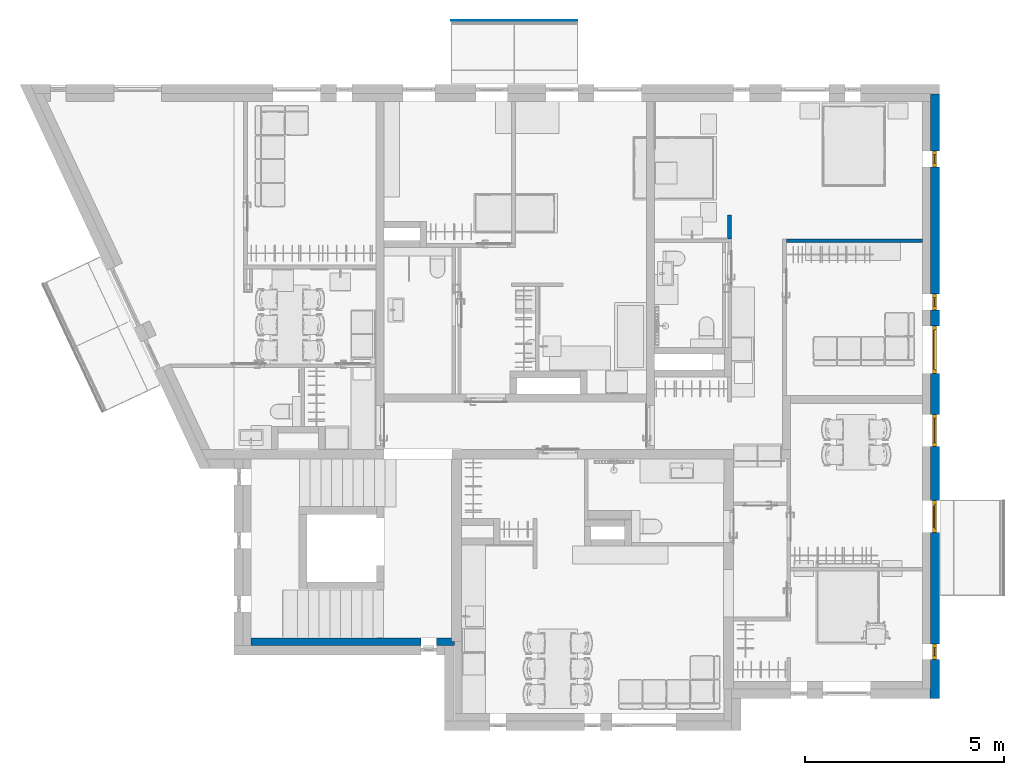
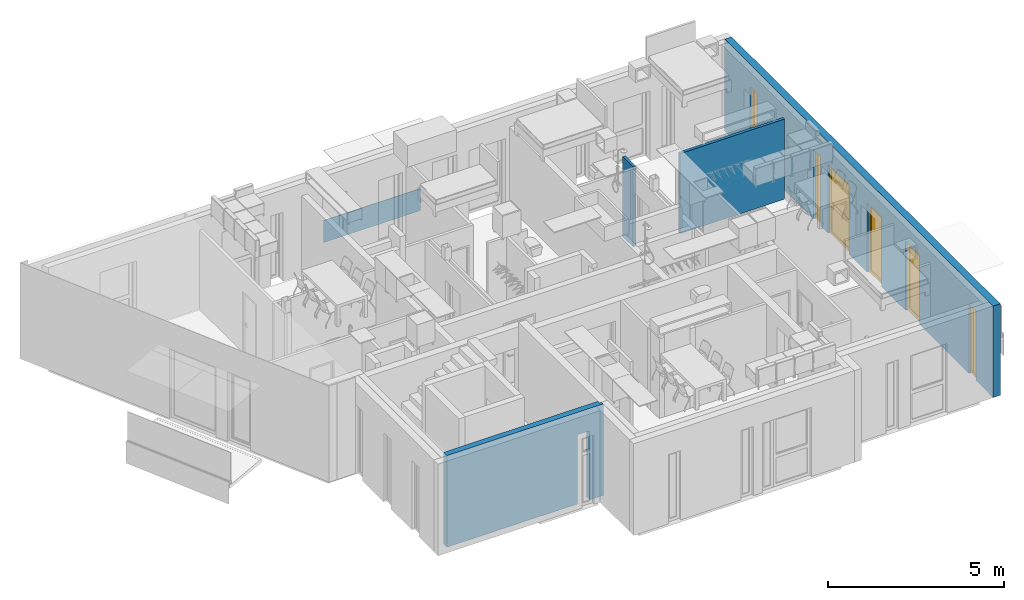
# One storey, part 9 of 68: 6 windows, 5 walls, 6 openings.
"""IFC2X3 building model written with IfcOpenShell, lengths in millimetres."""

from ifc_helpers import new_model, entity, si_unit, converted_unit, direction, frame, frame_2d, origin, place, context, subcontext, project, spatial, polyline, rectangle, extrude, clip, bounded_halfspace, faceted_brep, source, transform, mapped, material, material_list, layer, layer_set, layer_usage, type_object, type_shapes, element, fill, save


model = new_model("IFC2X3")

# Units and contexts
model_context = context("Model", 3, precision=0.01, world=origin(), true_north=direction((6.123233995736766e-17, 1.0)))
plan_context = context("Plan", 3, precision=0.01, world=origin(), true_north=direction((6.123233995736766e-17, 1.0)))
body_context = subcontext(model_context, "Body", "Model", "MODEL_VIEW")
ifc_project = project(units=[si_unit("LENGTHUNIT", "METRE", prefix="MILLI"), converted_unit("PLANEANGLEUNIT", "DEGREE", entity("IfcPlaneAngleMeasure", 0.017453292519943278), si_unit("PLANEANGLEUNIT", "RADIAN"), dimensions=[0, 0, 0, 0, 0, 0, 0]), si_unit("AREAUNIT", "SQUARE_METRE")], contexts=[model_context, plan_context])

# Site, building, storey
site_placement = place(None, origin())
site = spatial("IfcSite", under=ifc_project, at=site_placement, Name="Default", CompositionType="ELEMENT")
building_placement = place(site_placement, origin())
building = spatial("IfcBuilding", under=site, at=building_placement, CompositionType="ELEMENT")
storey_placement = place(building_placement, frame((0.0, 0.0, 6295.0)))
storey = spatial("IfcBuildingStorey", under=building, at=storey_placement, Name="3K", CompositionType="ELEMENT", Elevation=6294.999999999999)

# Wall
ifc_material_1 = material(Name="_K. Müüritis. Väikeplokk. Betoon-õõnesplokk")
ifc_layer_1 = layer(ifc_material_1, 190.00000000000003)
ifc_layer_set_1 = layer_set([ifc_layer_1], Name="Basic Wall:Columbia 190mm")
wall_type_1 = type_object("IfcWallType", Name="Basic Wall:Columbia 190mm", PredefinedType="STANDARD", material=ifc_layer_set_1)
wall_1_placement = place(storey_placement, frame((5114.997863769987, 1805.0, 0.0), z_axis=(0.0, 0.0, 1.0), x_axis=(-1.0, 0.0, 0.0)))
element("IfcWall", 1, at=wall_1_placement, inside=storey, type_object=wall_type_1, Name="Basic Wall:Columbia 190mm", ObjectType="Basic Wall:Columbia 190mm", context=body_context, shape_type="Brep", body=[
    faceted_brep([(5114.997863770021, -95.0, 3170.0), (844.9978637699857, -95.0, 3170.0), (444.9978637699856, -95.0, 3170.0), (65.00280291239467, -95.0, 3170.0), (65.00280291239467, -95.0, 0.0), (444.9978637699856, -95.0, 0.0), (444.9978637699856, -95.0, 2400.0), (844.9978637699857, -95.0, 2400.0), (844.9978637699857, -95.0, 0.0), (5114.997863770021, -95.0, 0.0), (0.0, 95.0, 3170.0), (4.997863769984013, 95.0, 3170.0), (244.997863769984, 95.0, 3170.0), (444.9978637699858, 95.0, 3170.0), (844.9978637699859, 95.0, 3170.0), (5114.99786377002, 95.0, 3170.0), (5114.99786377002, 95.0, 0.0), (844.9978637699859, 95.0, 0.0), (844.9978637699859, 95.0, 2400.0), (444.9978637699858, 95.0, 2400.0), (444.9978637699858, 95.0, 0.0), (244.997863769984, 95.0, 0.0), (4.997863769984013, 95.0, 0.0), (0.0, 95.0, 0.0), (65.00280291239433, 0.0, 0.0), (5.002802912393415, 0.0, 0.0), (0.0, 0.0, 0.0), (0.0, 0.0, 3170.0), (65.00280291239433, 0.0, 3170.0)], [[[0, 1, 2, 3, 4, 5, 6, 7, 8, 9]], [[10, 11, 12, 13, 14, 15, 16, 17, 18, 19, 20, 21, 22, 23]], [[4, 24, 25, 26, 23, 22, 21, 20, 5]], [[3, 2, 1, 0, 15, 14, 13, 12, 11, 10, 27, 28]], [[0, 9, 16, 15]], [[4, 3, 28, 24]], [[28, 27, 26, 25, 24]], [[10, 23, 26, 27]], [[7, 18, 17, 8]], [[18, 7, 6, 19]], [[19, 6, 5, 20]], [[16, 9, 8, 17]]]),
])

# Wall, openings, windows
ifc_material_2 = material(Name="_K. Väisviimistlus. Krohv. Valge")
ifc_layer_2 = layer(ifc_material_2, 10.0)
ifc_material_3 = material(Name="_K. Soojustus. EPS Silver")
ifc_layer_3 = layer(ifc_material_3, 230.0)
ifc_layer_set_2 = layer_set([ifc_layer_2, ifc_layer_3], Name="Basic Wall:VS-01")
ifc_layer_usage_1 = layer_usage(ifc_layer_set_2, "AXIS2", "NEGATIVE", 120.0)
wall_type_2 = type_object("IfcWallType", Name="Basic Wall:VS-01", PredefinedType="STANDARD", material=ifc_layer_set_2)
wall_2_placement = place(storey_placement, frame((17210.0, 15590.0, 0.0), z_axis=(0.0, 0.0, 1.0), x_axis=(0.0, -1.0, 0.0)))
wall_2 = element("IfcWallStandardCase", 2, at=wall_2_placement, inside=storey, type_object=wall_type_2, material=ifc_layer_usage_1, Name="Basic Wall:VS-01", ObjectType="Basic Wall:VS-01", context=body_context, shape_type="Clipping", body=[
    clip(clip(extrude(rectangle(XDim=15219.99999999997, YDim=240.00000000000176, at=frame_2d((7609.999999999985, 3.410605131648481e-13), x_axis=(-1.0, 0.0))), origin(), (0.0, 0.0, 1.0), 3169.999999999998), bounded_halfspace(frame((14980.0, -110.0, 0.0), z_axis=(0.0, 1.0, 0.0), x_axis=(-1.0, 0.0, 0.0)), True, frame((14980.0, -110.0, 0.0), z_axis=(0.0, 1.0, 0.0), x_axis=(-1.0, 0.0, 0.0)), polyline([(0.0, 0.0), (740.0, 0.0), (740.0, 2400.0), (1140.0, 2400.0), (1140.0, 0.0), (3940.0, 0.0), (3940.0, 2400.0), (4740.0, 2400.0), (4740.0, 0.0), (6110.0, 0.0), (6110.0, 2400.0), (6910.0, 2400.0), (6910.0, 0.0), (7940.0, 0.0), (7940.0, 2400.0), (9140.0, 2400.0), (9140.0, 0.0), (9540.0, 0.0), (9540.0, 2400.0), (9940.0, 2400.0), (9940.0, 0.0), (13140.0, 0.0), (13140.0, 2400.0), (13540.0, 2400.0), (13540.0, 0.0), (14790.0, 0.0), (14980.0, 0.0), (14980.0, 3170.0), (14790.0, 3170.0), (0.0, 3170.0), (0.0, 0.0)]))), bounded_halfspace(frame((14980.0, -110.0, 3170.0), z_axis=(1.0, 0.0, 0.0), x_axis=(0.0, 1.0, 0.0)), True, frame((14980.0, -110.0, 3170.0), z_axis=(1.0, 0.0, 0.0), x_axis=(0.0, 1.0, 0.0)), polyline([(0.0, 0.0), (-10.0, 0.0), (-10.0, -3170.0), (0.0, -3170.0), (0.0, 0.0)]))),
])
opening_1_placement = place(wall_2_placement, frame((15590.0, -17210.0, 0.0), z_axis=(0.0, 0.0, 1.0), x_axis=(0.0, 1.0, 0.0)))
opening_1 = element("IfcOpeningElement", 3, at=opening_1_placement, cuts=wall_2, Name="Basic Wall:VS-01", ObjectType="Opening", context=body_context, shape_type="Brep", body=[
    faceted_brep([(17350.0, 1350.0, 2400.0), (16656.0, 1350.0, 2400.0), (16656.0, 1350.0, 0.0), (17240.0, 1350.0, 0.0), (17250.0, 1350.0, 0.0), (17350.0, 1350.0, 0.0), (17350.0, 1750.0, 2400.0), (16656.0, 1750.0, 2400.0), (17350.0, 1750.0, 0.0), (17250.0, 1750.0, 0.0), (17240.0, 1750.0, 0.0), (16656.0, 1750.0, 0.0)], [[[0, 1, 2, 3, 4, 5]], [[6, 7, 1, 0]], [[8, 9, 10, 11, 7, 6]], [[5, 4, 3, 2, 11, 10, 9, 8]], [[6, 0, 5, 8]], [[7, 11, 2, 1]]]),
])
opening_2_placement = place(wall_2_placement, frame((15590.0, -17210.0, 0.0), z_axis=(0.0, 0.0, 1.0), x_axis=(0.0, 1.0, 0.0)))
opening_2 = element("IfcOpeningElement", 4, at=opening_2_placement, cuts=wall_2, Name="Basic Wall:VS-01", ObjectType="Opening", context=body_context, shape_type="Brep", body=[
    faceted_brep([(17350.0, 10150.0, 2400.0), (16656.0, 10150.0, 2400.0), (16656.0, 10150.0, 0.0), (17240.0, 10150.0, 0.0), (17250.0, 10150.0, 0.0), (17350.0, 10150.0, 0.0), (17350.0, 10550.0, 2400.0), (16656.0, 10550.0, 2400.0), (17350.0, 10550.0, 0.0), (17250.0, 10550.0, 0.0), (17240.0, 10550.0, 0.0), (16656.0, 10550.0, 0.0)], [[[0, 1, 2, 3, 4, 5]], [[6, 7, 1, 0]], [[8, 9, 10, 11, 7, 6]], [[5, 4, 3, 2, 11, 10, 9, 8]], [[6, 0, 5, 8]], [[7, 11, 2, 1]]]),
])
opening_3_placement = place(wall_2_placement, frame((15590.0, -17210.0, 0.0), z_axis=(0.0, 0.0, 1.0), x_axis=(0.0, 1.0, 0.0)))
opening_3 = element("IfcOpeningElement", 5, at=opening_3_placement, cuts=wall_2, Name="Basic Wall:VS-01", ObjectType="Opening", context=body_context, shape_type="Brep", body=[
    faceted_brep([(17350.0, 13750.0, 2400.0), (16656.0, 13750.0, 2400.0), (16656.0, 13750.0, 0.0), (17240.0, 13750.0, 0.0), (17250.0, 13750.0, 0.0), (17350.0, 13750.0, 0.0), (17350.0, 14150.0, 2400.0), (16656.0, 14150.0, 2400.0), (17350.0, 14150.0, 0.0), (17250.0, 14150.0, 0.0), (17240.0, 14150.0, 0.0), (16656.0, 14150.0, 0.0)], [[[0, 1, 2, 3, 4, 5]], [[6, 7, 1, 0]], [[8, 9, 10, 11, 7, 6]], [[5, 4, 3, 2, 11, 10, 9, 8]], [[6, 0, 5, 8]], [[7, 11, 2, 1]]]),
])
opening_4_placement = place(wall_2_placement, frame((15590.0, -17210.0, 0.0), z_axis=(0.0, 0.0, 1.0), x_axis=(0.0, 1.0, 0.0)))
opening_4 = element("IfcOpeningElement", 6, at=opening_4_placement, cuts=wall_2, Name="Basic Wall:VS-01", ObjectType="Opening", context=body_context, shape_type="Brep", body=[
    faceted_brep([(17350.0, 4550.0, 2400.0), (16656.0, 4550.0, 2400.0), (16656.0, 4550.0, 0.0), (17240.0, 4550.0, 0.0), (17250.0, 4550.0, 0.0), (17350.0, 4550.0, 0.0), (17350.0, 5350.0, 2400.0), (16656.0, 5350.0, 2400.0), (17350.0, 5350.0, 0.0), (17250.0, 5350.0, 0.0), (17240.0, 5350.0, 0.0), (16656.0, 5350.0, 0.0)], [[[0, 1, 2, 3, 4, 5]], [[6, 7, 1, 0]], [[8, 9, 10, 11, 7, 6]], [[5, 4, 3, 2, 11, 10, 9, 8]], [[6, 0, 5, 8]], [[7, 11, 2, 1]]]),
])
opening_5_placement = place(wall_2_placement, frame((15590.0, -17210.0, 0.0), z_axis=(0.0, 0.0, 1.0), x_axis=(0.0, 1.0, 0.0)))
opening_5 = element("IfcOpeningElement", 7, at=opening_5_placement, cuts=wall_2, Name="Basic Wall:VS-01", ObjectType="Opening", context=body_context, shape_type="Brep", body=[
    faceted_brep([(17350.0, 6720.0, 2400.0), (16656.0, 6720.0, 2400.0), (16656.0, 6720.0, 0.0), (17240.0, 6720.0, 0.0), (17250.0, 6720.0, 0.0), (17350.0, 6720.0, 0.0), (17350.0, 7520.0, 2400.0), (16656.0, 7520.0, 2400.0), (17350.0, 7520.0, 0.0), (17250.0, 7520.0, 0.0), (17240.0, 7520.0, 0.0), (16656.0, 7520.0, 0.0)], [[[0, 1, 2, 3, 4, 5]], [[6, 7, 1, 0]], [[8, 9, 10, 11, 7, 6]], [[5, 4, 3, 2, 11, 10, 9, 8]], [[6, 0, 5, 8]], [[7, 11, 2, 1]]]),
])
opening_6_placement = place(wall_2_placement, frame((15590.0, -17210.0, 0.0), z_axis=(0.0, 0.0, 1.0), x_axis=(0.0, 1.0, 0.0)))
opening_6 = element("IfcOpeningElement", 8, at=opening_6_placement, cuts=wall_2, Name="Basic Wall:VS-01", ObjectType="Opening", context=body_context, shape_type="Brep", body=[
    faceted_brep([(17350.0, 8550.0, 2400.0), (16656.0, 8550.0, 2400.0), (16656.0, 8550.0, 0.0), (17240.0, 8550.0, 0.0), (17250.0, 8550.0, 0.0), (17350.0, 8550.0, 0.0), (17350.0, 9750.0, 2400.0), (16656.0, 9750.0, 2400.0), (17350.0, 9750.0, 0.0), (17250.0, 9750.0, 0.0), (17240.0, 9750.0, 0.0), (16656.0, 9750.0, 0.0)], [[[0, 1, 2, 3, 4, 5]], [[6, 7, 1, 0]], [[8, 9, 10, 11, 7, 6]], [[5, 4, 3, 2, 11, 10, 9, 8]], [[6, 0, 5, 8]], [[7, 11, 2, 1]]]),
])
ifc_material_4 = material(Name="_K. Klaas. Pakett")
ifc_material_5 = material(Name="_K. Avatäited. Raam. PVC. RAL9005")
ifc_material_6 = material(Name="_K. Avatäited. Raam. PVC. Valge")
ifc_material_list_1 = material_list([ifc_material_4, ifc_material_5, ifc_material_6])
window_style_1 = type_object("IfcWindowStyle", Name="HR_Window_Generic_Rectangle_1x2:A-13.1200x2400.P", ConstructionType="NOTDEFINED", OperationType="NOTDEFINED", ParameterTakesPrecedence=False, Sizeable=False, material=ifc_material_list_1)
shared_shape_1 = source(origin(), body_context, "Body", "Brep", [
    faceted_brep([(78.0, -154.0, 2322.0), (1122.0, -154.0, 2322.0), (1122.0, -154.0, 1101.0), (78.0, -154.0, 1101.0), (1122.0, -179.0, 2322.0), (1122.0, -179.0, 1101.0), (78.0, -179.0, 1101.0), (78.0, -179.0, 2322.0)], [[[0, 1, 2, 3]], [[2, 1, 4, 5]], [[3, 2, 5, 6]], [[0, 3, 6, 7]], [[7, 6, 5, 4]], [[1, 0, 7, 4]]]),
    faceted_brep([(1122.0, -154.0, 2322.0), (1122.0, -154.0, 1101.0), (1122.0, -179.0, 1101.0), (1122.0, -179.0, 2322.0), (1142.0, -134.0, 2342.0), (58.0, -134.0, 2342.0), (58.0, -194.0, 2342.0), (1142.0, -194.0, 2342.0), (98.0, -154.0, 2302.0), (98.0, -134.0, 2302.0), (1102.0, -134.0, 2302.0), (1102.0, -154.0, 2302.0), (98.0, -179.0, 2302.0), (98.0, -194.0, 2302.0), (98.0, -194.0, 1121.0), (98.0, -179.0, 1121.0), (1142.0, -134.0, 1081.0), (1142.0, -194.0, 1081.0), (58.0, -194.0, 1081.0), (58.0, -134.0, 1081.0), (1102.0, -194.0, 2302.0), (1102.0, -194.0, 1121.0), (98.0, -134.0, 1121.0), (1102.0, -134.0, 1121.0), (98.0, -154.0, 1121.0), (1102.0, -154.0, 1121.0), (78.0, -154.0, 1101.0), (78.0, -179.0, 1101.0), (78.0, -154.0, 2322.0), (78.0, -179.0, 2322.0), (1102.0, -179.0, 2302.0), (1102.0, -179.0, 1121.0)], [[[0, 1, 2, 3]], [[4, 5, 6, 7]], [[8, 9, 10, 11]], [[12, 13, 14, 15]], [[16, 17, 18, 19]], [[4, 7, 17, 16]], [[13, 20, 21, 14], [7, 6, 18, 17]], [[6, 5, 19, 18]], [[5, 4, 16, 19], [10, 9, 22, 23]], [[9, 8, 24, 22]], [[25, 23, 22, 24]], [[11, 10, 23, 25]], [[1, 26, 27, 2]], [[26, 28, 29, 27]], [[28, 26, 1, 0], [8, 11, 25, 24]], [[28, 0, 3, 29]], [[20, 30, 31, 21]], [[21, 31, 15, 14]], [[29, 3, 2, 27], [30, 12, 15, 31]], [[13, 12, 30, 20]]], outer=[[True], [True], [True], [True], [True], [True], [False, True], [True], [True, False], [True], [True], [True], [True], [True], [True, False], [True], [True], [True], [True, False], [True]]),
    faceted_brep([(88.0, -194.0, 989.0), (1112.0, -194.0, 989.0), (1112.0, -194.0, 108.0), (88.0, -194.0, 108.0), (1142.0, -194.0, 1019.0), (58.0, -194.0, 1019.0), (58.0, -194.0, 78.0), (1142.0, -194.0, 78.0), (88.0, -159.0, 989.0), (88.0, -159.0, 108.0), (1112.0, -159.0, 108.0), (1142.0, -159.0, 1019.0), (1142.0, -159.0, 78.0), (58.0, -159.0, 78.0), (58.0, -159.0, 1019.0), (1112.0, -159.0, 989.0)], [[[0, 1, 2, 3], [4, 5, 6, 7]], [[8, 0, 3, 9]], [[9, 3, 2, 10]], [[11, 12, 13, 14], [15, 8, 9, 10]], [[1, 15, 10, 2]], [[6, 5, 14, 13]], [[7, 6, 13, 12]], [[4, 7, 12, 11]], [[15, 1, 0, 8]], [[5, 4, 11, 14]]], outer=[[False, True], [True], [True], [True, False], [True], [True], [True], [True], [True], [True]]),
    faceted_brep([(1142.0, -159.0, 1019.0), (58.0, -159.0, 1019.0), (58.0, -159.0, 78.0), (1142.0, -159.0, 78.0), (58.0, -134.0, 1019.0), (58.0, -134.0, 78.0), (1142.0, -134.0, 78.0), (1142.0, -134.0, 1019.0)], [[[0, 1, 2, 3]], [[2, 1, 4, 5]], [[3, 2, 5, 6]], [[0, 3, 6, 7]], [[7, 6, 5, 4]], [[1, 0, 7, 4]]]),
    faceted_brep([(58.0, -134.0, 2342.0), (58.0, -134.0, 1081.0), (1142.0, -134.0, 1081.0), (1142.0, -134.0, 2342.0), (88.0, -134.0, 2312.0), (1112.0, -134.0, 2312.0), (1112.0, -134.0, 1111.0), (88.0, -134.0, 1111.0), (1142.0, -134.0, 1019.0), (1142.0, -134.0, 78.0), (1142.0, -194.0, 78.0), (1142.0, -194.0, 1019.0), (58.0, -134.0, 78.0), (58.0, -134.0, 1019.0), (58.0, -194.0, 1019.0), (58.0, -194.0, 78.0), (1112.0, -100.0, 108.0), (88.0, -100.0, 108.0), (88.0, -134.0, 108.0), (1112.0, -134.0, 108.0), (88.0, -100.0, 989.0), (88.0, -134.0, 989.0), (1112.0, -100.0, 989.0), (1112.0, -134.0, 989.0), (1200.0, -194.0, 2400.0), (0.0, -194.0, 2400.0), (0.0, -194.0, 30.0), (1200.0, -194.0, 30.0), (58.0, -194.0, 2342.0), (1142.0, -194.0, 2342.0), (1142.0, -194.0, 1081.0), (58.0, -194.0, 1081.0), (0.0, -100.0, 2400.0), (0.0, -100.0, 30.0), (0.0, -110.0, 30.0), (0.0, -110.0, 0.0), (0.0, -184.0, 0.0), (0.0, -184.0, 30.0), (1200.0, -184.0, 30.0), (1200.0, -100.0, 2400.0), (1200.0, -184.0, 0.0), (1200.0, -110.0, 0.0), (1200.0, -110.0, 30.0), (1200.0, -100.0, 30.0), (88.0, -100.0, 2312.0), (88.0, -100.0, 1111.0), (1112.0, -100.0, 1111.0), (1112.0, -100.0, 2312.0)], [[[0, 1, 2, 3], [4, 5, 6, 7]], [[8, 9, 10, 11]], [[12, 13, 14, 15]], [[9, 12, 15, 10]], [[16, 17, 18, 19]], [[17, 20, 21, 18]], [[22, 16, 19, 23]], [[11, 10, 15, 14], [24, 25, 26, 27], [28, 29, 30, 31]], [[25, 32, 33, 34, 35, 36, 37, 26]], [[37, 38, 27, 26]], [[39, 24, 27, 38, 40, 41, 42, 43]], [[17, 16, 22, 20], [32, 39, 43, 33], [44, 45, 46, 47]], [[42, 34, 33, 43]], [[34, 42, 41, 35]], [[35, 41, 40, 36]], [[38, 37, 36, 40]], [[25, 24, 39, 32]], [[44, 47, 5, 4]], [[47, 46, 6, 5]], [[45, 44, 4, 7]], [[0, 3, 29, 28]], [[3, 2, 30, 29]], [[13, 8, 11, 14]], [[1, 0, 28, 31]], [[2, 1, 31, 30]], [[46, 45, 7, 6]], [[20, 22, 23, 21]], [[9, 8, 13, 12], [19, 18, 21, 23]]], outer=[[True, False], [True], [True], [True], [True], [True], [True], [False, True, False], [True], [True], [True], [False, True, False], [True], [True], [True], [True], [True], [True], [True], [True], [True], [True], [True], [True], [True], [True], [True], [True, False]]),
])
type_shapes(window_style_1, [shared_shape_1])
window_1_placement = place(opening_6_placement, frame((17350.0, 9750.0, 0.0), z_axis=(0.0, 0.0, 1.0), x_axis=(0.0, -1.0, 0.0)))
window_1 = element("IfcWindow", 9, at=window_1_placement, inside=storey, type_object=window_style_1, material=ifc_material_list_1, Name="HR_Window_Generic_Rectangle_1x2:A-13.1200x2400.P", ObjectType="HR_Window_Generic_Rectangle_1x2:A-13.1200x2400.P", OverallHeight=2465.0000000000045, OverallWidth=1200.0000000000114, context=body_context, shape_type="MappedRepresentation", body=[
    mapped(shared_shape_1, transform((0.0, 0.0, 0.0), scale=1.0)),
])
fill(opening_6, window_1)
ifc_material_list_2 = material_list([ifc_material_6, ifc_material_4, ifc_material_5])
window_style_2 = type_object("IfcWindowStyle", Name="HR_Window_Generic_Rectangle_1x1:A-01.400x2400.ma", ConstructionType="NOTDEFINED", OperationType="NOTDEFINED", ParameterTakesPrecedence=False, Sizeable=False, material=ifc_material_list_2)
shared_shape_2 = source(origin(), body_context, "Body", "Brep", [
    faceted_brep([(88.0, -194.0, 2312.0), (312.0, -194.0, 2312.0), (312.0, -194.0, 108.0), (88.0, -194.0, 108.0), (342.0, -194.0, 2342.0), (58.0, -194.0, 2342.0), (58.0, -194.0, 78.0), (342.0, -194.0, 78.0), (88.0, -159.0, 2312.0), (88.0, -159.0, 108.0), (312.0, -159.0, 108.0), (342.0, -159.0, 2342.0), (342.0, -159.0, 78.0), (58.0, -159.0, 78.0), (58.0, -159.0, 2342.0), (312.0, -159.0, 2312.0)], [[[0, 1, 2, 3], [4, 5, 6, 7]], [[8, 0, 3, 9]], [[9, 3, 2, 10]], [[11, 12, 13, 14], [15, 8, 9, 10]], [[1, 15, 10, 2]], [[6, 5, 14, 13]], [[7, 6, 13, 12]], [[4, 7, 12, 11]], [[15, 1, 0, 8]], [[5, 4, 11, 14]]], outer=[[False, True], [True], [True], [True, False], [True], [True], [True], [True], [True], [True]]),
    faceted_brep([(342.0, -159.0, 2342.0), (58.0, -159.0, 2342.0), (58.0, -159.0, 78.0), (342.0, -159.0, 78.0), (58.0, -134.0, 2342.0), (58.0, -134.0, 78.0), (342.0, -134.0, 78.0), (342.0, -134.0, 2342.0)], [[[0, 1, 2, 3]], [[2, 1, 4, 5]], [[3, 2, 5, 6]], [[0, 3, 6, 7]], [[7, 6, 5, 4]], [[1, 0, 7, 4]]]),
    faceted_brep([(342.0, -134.0, 78.0), (58.0, -134.0, 78.0), (58.0, -194.0, 78.0), (342.0, -194.0, 78.0), (58.0, -134.0, 2342.0), (58.0, -194.0, 2342.0), (342.0, -134.0, 2342.0), (342.0, -194.0, 2342.0), (88.0, -100.0, 108.0), (88.0, -100.0, 2312.0), (88.0, -134.0, 2312.0), (88.0, -134.0, 108.0), (312.0, -100.0, 108.0), (312.0, -134.0, 108.0), (312.0, -100.0, 2312.0), (312.0, -134.0, 2312.0), (0.0, -100.0, 2400.0), (400.0, -100.0, 2400.0), (400.0, -100.0, 30.0), (0.0, -100.0, 30.0), (400.0, -194.0, 2400.0), (0.0, -194.0, 2400.0), (0.0, -194.0, 30.0), (400.0, -194.0, 30.0), (0.0, -110.0, 30.0), (0.0, -110.0, 0.0), (0.0, -184.0, 0.0), (0.0, -184.0, 30.0), (400.0, -184.0, 30.0), (400.0, -184.0, 0.0), (400.0, -110.0, 0.0), (400.0, -110.0, 30.0)], [[[0, 1, 2, 3]], [[1, 4, 5, 2]], [[6, 0, 3, 7]], [[8, 9, 10, 11]], [[12, 8, 11, 13]], [[14, 12, 13, 15]], [[16, 17, 18, 19], [9, 8, 12, 14]], [[20, 21, 22, 23], [7, 3, 2, 5]], [[21, 16, 19, 24, 25, 26, 27, 22]], [[27, 28, 23, 22]], [[17, 20, 23, 28, 29, 30, 31, 18]], [[31, 24, 19, 18]], [[24, 31, 30, 25]], [[25, 30, 29, 26]], [[28, 27, 26, 29]], [[4, 6, 7, 5]], [[9, 14, 15, 10]], [[21, 20, 17, 16]], [[10, 15, 13, 11], [0, 6, 4, 1]]], outer=[[True], [True], [True], [True], [True], [True], [True, False], [True, False], [True], [True], [True], [True], [True], [True], [True], [True], [True], [True], [False, True]]),
])
type_shapes(window_style_2, [shared_shape_2])
window_2_placement = place(opening_3_placement, frame((17350.0, 14150.0, 0.0), z_axis=(0.0, 0.0, 1.0), x_axis=(0.0, -1.0, 0.0)))
window_2 = element("IfcWindow", 10, at=window_2_placement, inside=storey, type_object=window_style_2, material=ifc_material_list_2, Name="HR_Window_Generic_Rectangle_1x1:A-01.400x2400.ma", ObjectType="HR_Window_Generic_Rectangle_1x1:A-01.400x2400.ma", OverallHeight=2465.0000000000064, OverallWidth=400.0000000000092, context=body_context, shape_type="MappedRepresentation", body=[
    mapped(shared_shape_2, transform((0.0, 0.0, 0.0), scale=1.0)),
])
fill(opening_3, window_2)
window_3_placement = place(opening_2_placement, frame((17350.0, 10550.0, 0.0), z_axis=(0.0, 0.0, 1.0), x_axis=(0.0, -1.0, 0.0)))
window_3 = element("IfcWindow", 11, at=window_3_placement, inside=storey, type_object=window_style_2, material=ifc_material_list_2, Name="HR_Window_Generic_Rectangle_1x1:A-01.400x2400.ma", ObjectType="HR_Window_Generic_Rectangle_1x1:A-01.400x2400.ma", OverallHeight=2465.0000000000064, OverallWidth=400.0000000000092, context=body_context, shape_type="MappedRepresentation", body=[
    mapped(shared_shape_2, transform((0.0, 0.0, 0.0), scale=1.0)),
])
fill(opening_2, window_3)
window_4_placement = place(opening_1_placement, frame((17350.0, 1750.0, 0.0), z_axis=(0.0, 0.0, 1.0), x_axis=(0.0, -1.0, 0.0)))
window_4 = element("IfcWindow", 12, at=window_4_placement, inside=storey, type_object=window_style_2, material=ifc_material_list_2, Name="HR_Window_Generic_Rectangle_1x1:A-01.400x2400.ma", ObjectType="HR_Window_Generic_Rectangle_1x1:A-01.400x2400.ma", OverallHeight=2465.0000000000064, OverallWidth=400.0000000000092, context=body_context, shape_type="MappedRepresentation", body=[
    mapped(shared_shape_2, transform((0.0, 0.0, 0.0), scale=1.0)),
])
fill(opening_1, window_4)
window_style_3 = type_object("IfcWindowStyle", Name="HR_Window_Generic_Rectangle_1x1:A-02. 800x2400. ma", ConstructionType="NOTDEFINED", OperationType="NOTDEFINED", ParameterTakesPrecedence=False, Sizeable=False, material=ifc_material_list_2)
shared_shape_3 = source(origin(), body_context, "Body", "Brep", [
    faceted_brep([(88.0, -194.0, 2312.0), (712.0, -194.0, 2312.0), (712.0, -194.0, 108.0), (88.0, -194.0, 108.0), (742.0, -194.0, 2342.0), (58.0, -194.0, 2342.0), (58.0, -194.0, 78.0), (742.0, -194.0, 78.0), (88.0, -159.0, 2312.0), (88.0, -159.0, 108.0), (712.0, -159.0, 108.0), (742.0, -159.0, 2342.0), (742.0, -159.0, 78.0), (58.0, -159.0, 78.0), (58.0, -159.0, 2342.0), (712.0, -159.0, 2312.0)], [[[0, 1, 2, 3], [4, 5, 6, 7]], [[8, 0, 3, 9]], [[9, 3, 2, 10]], [[11, 12, 13, 14], [15, 8, 9, 10]], [[1, 15, 10, 2]], [[6, 5, 14, 13]], [[7, 6, 13, 12]], [[4, 7, 12, 11]], [[15, 1, 0, 8]], [[5, 4, 11, 14]]], outer=[[False, True], [True], [True], [True, False], [True], [True], [True], [True], [True], [True]]),
    faceted_brep([(742.0, -159.0, 2342.0), (58.0, -159.0, 2342.0), (58.0, -159.0, 78.0), (742.0, -159.0, 78.0), (58.0, -134.0, 2342.0), (58.0, -134.0, 78.0), (742.0, -134.0, 78.0), (742.0, -134.0, 2342.0)], [[[0, 1, 2, 3]], [[2, 1, 4, 5]], [[3, 2, 5, 6]], [[0, 3, 6, 7]], [[7, 6, 5, 4]], [[1, 0, 7, 4]]]),
    faceted_brep([(742.0, -134.0, 78.0), (58.0, -134.0, 78.0), (58.0, -194.0, 78.0), (742.0, -194.0, 78.0), (58.0, -134.0, 2342.0), (58.0, -194.0, 2342.0), (742.0, -134.0, 2342.0), (742.0, -194.0, 2342.0), (88.0, -100.0, 108.0), (88.0, -100.0, 2312.0), (88.0, -134.0, 2312.0), (88.0, -134.0, 108.0), (712.0, -100.0, 108.0), (712.0, -134.0, 108.0), (712.0, -100.0, 2312.0), (712.0, -134.0, 2312.0), (0.0, -100.0, 2400.0), (800.0, -100.0, 2400.0), (800.0, -100.0, 30.0), (0.0, -100.0, 30.0), (800.0, -194.0, 2400.0), (0.0, -194.0, 2400.0), (0.0, -194.0, 30.0), (800.0, -194.0, 30.0), (0.0, -110.0, 30.0), (0.0, -110.0, 0.0), (0.0, -184.0, 0.0), (0.0, -184.0, 30.0), (800.0, -184.0, 30.0), (800.0, -184.0, 0.0), (800.0, -110.0, 0.0), (800.0, -110.0, 30.0)], [[[0, 1, 2, 3]], [[1, 4, 5, 2]], [[6, 0, 3, 7]], [[8, 9, 10, 11]], [[12, 8, 11, 13]], [[14, 12, 13, 15]], [[16, 17, 18, 19], [9, 8, 12, 14]], [[20, 21, 22, 23], [7, 3, 2, 5]], [[21, 16, 19, 24, 25, 26, 27, 22]], [[27, 28, 23, 22]], [[17, 20, 23, 28, 29, 30, 31, 18]], [[31, 24, 19, 18]], [[24, 31, 30, 25]], [[25, 30, 29, 26]], [[28, 27, 26, 29]], [[4, 6, 7, 5]], [[9, 14, 15, 10]], [[21, 20, 17, 16]], [[10, 15, 13, 11], [0, 6, 4, 1]]], outer=[[True], [True], [True], [True], [True], [True], [True, False], [True, False], [True], [True], [True], [True], [True], [True], [True], [True], [True], [True], [False, True]]),
])
type_shapes(window_style_3, [shared_shape_3])
window_5_placement = place(opening_5_placement, frame((17350.0, 7520.0, 0.0), z_axis=(0.0, 0.0, 1.0), x_axis=(0.0, -1.0, 0.0)))
window_5 = element("IfcWindow", 13, at=window_5_placement, inside=storey, type_object=window_style_3, material=ifc_material_list_2, Name="HR_Window_Generic_Rectangle_1x1:A-02. 800x2400. ma", ObjectType="HR_Window_Generic_Rectangle_1x1:A-02. 800x2400. ma", OverallHeight=2465.0000000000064, OverallWidth=800.000000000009, context=body_context, shape_type="MappedRepresentation", body=[
    mapped(shared_shape_3, transform((0.0, 0.0, 0.0), scale=1.0)),
])
fill(opening_5, window_5)
ifc_material_list_3 = material_list([ifc_material_4, ifc_material_5])
window_style_4 = type_object("IfcWindowStyle", Name="HR_Window_Generic_Rectangle_1x1:A-10.800x2400.P", ConstructionType="NOTDEFINED", OperationType="NOTDEFINED", ParameterTakesPrecedence=False, Sizeable=False, material=ifc_material_list_3)
shared_shape_4 = source(origin(), body_context, "Body", "Brep", [
    faceted_brep([(108.0, -154.0, 2292.0), (692.0, -154.0, 2292.0), (692.0, -154.0, 128.0), (108.0, -154.0, 128.0), (692.0, -179.0, 2292.0), (692.0, -179.0, 128.0), (108.0, -179.0, 128.0), (108.0, -179.0, 2292.0)], [[[0, 1, 2, 3]], [[2, 1, 4, 5]], [[3, 2, 5, 6]], [[0, 3, 6, 7]], [[7, 6, 5, 4]], [[1, 0, 7, 4]]]),
    faceted_brep([(692.0, -154.0, 2292.0), (692.0, -154.0, 128.0), (692.0, -179.0, 128.0), (692.0, -179.0, 2292.0), (742.0, -134.0, 2342.0), (58.0, -134.0, 2342.0), (58.0, -194.0, 2342.0), (742.0, -194.0, 2342.0), (128.0, -154.0, 2272.0), (128.0, -134.0, 2272.0), (672.0, -134.0, 2272.0), (672.0, -154.0, 2272.0), (128.0, -179.0, 2272.0), (128.0, -194.0, 2272.0), (128.0, -194.0, 148.0), (128.0, -179.0, 148.0), (742.0, -134.0, 78.0), (742.0, -194.0, 78.0), (58.0, -194.0, 78.0), (58.0, -134.0, 78.0), (672.0, -194.0, 2272.0), (672.0, -194.0, 148.0), (128.0, -134.0, 148.0), (672.0, -134.0, 148.0), (128.0, -154.0, 148.0), (672.0, -154.0, 148.0), (108.0, -154.0, 128.0), (108.0, -179.0, 128.0), (108.0, -154.0, 2292.0), (108.0, -179.0, 2292.0), (672.0, -179.0, 2272.0), (672.0, -179.0, 148.0)], [[[0, 1, 2, 3]], [[4, 5, 6, 7]], [[8, 9, 10, 11]], [[12, 13, 14, 15]], [[16, 17, 18, 19]], [[4, 7, 17, 16]], [[13, 20, 21, 14], [7, 6, 18, 17]], [[6, 5, 19, 18]], [[5, 4, 16, 19], [10, 9, 22, 23]], [[9, 8, 24, 22]], [[25, 23, 22, 24]], [[11, 10, 23, 25]], [[1, 26, 27, 2]], [[26, 28, 29, 27]], [[28, 26, 1, 0], [8, 11, 25, 24]], [[28, 0, 3, 29]], [[20, 30, 31, 21]], [[21, 31, 15, 14]], [[29, 3, 2, 27], [30, 12, 15, 31]], [[13, 12, 30, 20]]], outer=[[True], [True], [True], [True], [True], [True], [False, True], [True], [True, False], [True], [True], [True], [True], [True], [True, False], [True], [True], [True], [True, False], [True]]),
    faceted_brep([(742.0, -134.0, 78.0), (58.0, -134.0, 78.0), (58.0, -194.0, 78.0), (742.0, -194.0, 78.0), (58.0, -134.0, 2342.0), (58.0, -194.0, 2342.0), (742.0, -134.0, 2342.0), (742.0, -194.0, 2342.0), (88.0, -100.0, 108.0), (88.0, -100.0, 2312.0), (88.0, -134.0, 2312.0), (88.0, -134.0, 108.0), (712.0, -100.0, 108.0), (712.0, -134.0, 108.0), (712.0, -100.0, 2312.0), (712.0, -134.0, 2312.0), (0.0, -100.0, 2400.0), (800.0, -100.0, 2400.0), (800.0, -100.0, 30.0), (0.0, -100.0, 30.0), (800.0, -194.0, 2400.0), (0.0, -194.0, 2400.0), (0.0, -194.0, 30.0), (800.0, -194.0, 30.0), (0.0, -110.0, 30.0), (0.0, -110.0, 0.0), (0.0, -184.0, 0.0), (0.0, -184.0, 30.0), (800.0, -184.0, 30.0), (800.0, -184.0, 0.0), (800.0, -110.0, 0.0), (800.0, -110.0, 30.0)], [[[0, 1, 2, 3]], [[1, 4, 5, 2]], [[6, 0, 3, 7]], [[8, 9, 10, 11]], [[12, 8, 11, 13]], [[14, 12, 13, 15]], [[16, 17, 18, 19], [9, 8, 12, 14]], [[20, 21, 22, 23], [7, 3, 2, 5]], [[21, 16, 19, 24, 25, 26, 27, 22]], [[27, 28, 23, 22]], [[17, 20, 23, 28, 29, 30, 31, 18]], [[31, 24, 19, 18]], [[24, 31, 30, 25]], [[25, 30, 29, 26]], [[28, 27, 26, 29]], [[4, 6, 7, 5]], [[9, 14, 15, 10]], [[21, 20, 17, 16]], [[10, 15, 13, 11], [0, 6, 4, 1]]], outer=[[True], [True], [True], [True], [True], [True], [True, False], [True, False], [True], [True], [True], [True], [True], [True], [True], [True], [True], [True], [False, True]]),
])
type_shapes(window_style_4, [shared_shape_4])
window_6_placement = place(opening_4_placement, frame((17350.0, 5350.0, 0.0), z_axis=(0.0, 0.0, 1.0), x_axis=(0.0, -1.0, 0.0)))
window_6 = element("IfcWindow", 14, at=window_6_placement, inside=storey, type_object=window_style_4, material=ifc_material_list_3, Name="HR_Window_Generic_Rectangle_1x1:A-10.800x2400.P", ObjectType="HR_Window_Generic_Rectangle_1x1:A-10.800x2400.P", OverallHeight=2465.0000000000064, OverallWidth=800.000000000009, context=body_context, shape_type="MappedRepresentation", body=[
    mapped(shared_shape_4, transform((0.0, 0.0, 0.0), scale=1.0)),
])
fill(opening_4, window_6)

# Walls
ifc_material_7 = material(Name="_K. Ehitusplaat. Kipsplaat. Erikõva")
ifc_layer_4 = layer(ifc_material_7, 13.000000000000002)
ifc_material_8 = material(Name="_K. Soojustus. Mineraalvill")
ifc_layer_5 = layer(ifc_material_8, 66.0)
ifc_layer_6 = layer(ifc_material_7, 13.000000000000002)
ifc_layer_set_3 = layer_set([ifc_layer_4, ifc_layer_5, ifc_layer_6], Name="Basic Wall:SS-401")
ifc_layer_usage_2 = layer_usage(ifc_layer_set_3, "AXIS2", "NEGATIVE", 46.00000000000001)
wall_type_3 = type_object("IfcWallType", Name="Basic Wall:SS-401", PredefinedType="STANDARD", material=ifc_layer_set_3)
wall_3_placement = place(storey_placement, frame((13472.0, 11894.0, -20.0)))
element("IfcWallStandardCase", 15, at=wall_3_placement, inside=storey, type_object=wall_type_3, material=ifc_layer_usage_2, Name="Basic Wall:SS-401", ObjectType="Basic Wall:SS-401", context=body_context, shape_type="SweptSolid", body=[
    extrude(rectangle(XDim=3427.999999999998, YDim=92.00000000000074, at=frame_2d((1713.999999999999, -6.714628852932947e-13), x_axis=(-1.0, 0.0))), origin(), (0.0, 0.0, 1.0), 2769.999999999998),
])
ifc_layer_usage_3 = layer_usage(ifc_layer_set_3, "AXIS2", "NEGATIVE", 46.00000000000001)
wall_4_placement = place(storey_placement, frame((12042.0, 11940.0, -20.0), z_axis=(0.0, 0.0, 1.0), x_axis=(0.0, 1.0, 0.0)))
element("IfcWallStandardCase", 16, at=wall_4_placement, inside=storey, type_object=wall_type_3, material=ifc_layer_usage_3, Name="Basic Wall:SS-401", ObjectType="Basic Wall:SS-401", context=body_context, shape_type="SweptSolid", body=[
    extrude(rectangle(XDim=600.0000000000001, YDim=92.00000000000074, at=frame_2d((300.00000000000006, 5.009326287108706e-13), x_axis=(-1.0, 0.0))), origin(), (0.0, 0.0, 1.0), 2769.999999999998),
])
ifc_material_9 = material(Name="_K. Välisviimistlus. Alumiinium-komposiitplaat")
ifc_layer_7 = layer(ifc_material_9, 4.0)
ifc_material_10 = material(Name="_K. Õhk. Roov. Fassaadikatte alusroov. Horisontaalne. 25 mm")
ifc_layer_8 = layer(ifc_material_10, 16.0)
ifc_layer_set_4 = layer_set([ifc_layer_7, ifc_layer_8], Name="Basic Wall:VS-komposiit")
ifc_layer_usage_4 = layer_usage(ifc_layer_set_4, "AXIS2", "NEGATIVE", 10.000000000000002)
wall_type_4 = type_object("IfcWallType", Name="Basic Wall:VS-komposiit", PredefinedType="STANDARD")
wall_5_placement = place(storey_placement, frame((5040.4165884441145, 17442.0, -762.5000000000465)))
element("IfcWallStandardCase", 17, at=wall_5_placement, inside=storey, type_object=wall_type_4, material=ifc_layer_usage_4, Name="Basic Wall:VS-komposiit", ObjectType="Basic Wall:VS-komposiit", context=body_context, shape_type="SweptSolid", body=[
    extrude(rectangle(XDim=3169.583411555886, YDim=19.999999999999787, at=frame_2d((1584.791705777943, -1.234568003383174e-13), x_axis=(-1.0, 0.0))), origin(), (0.0, 0.0, 1.0), 762.5000000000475),
])

save(model, "model.ifc")
